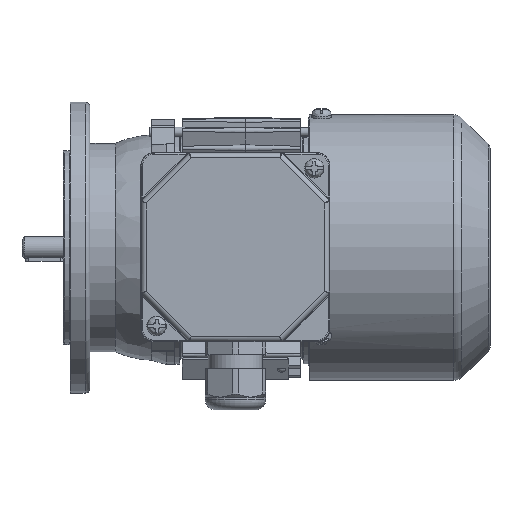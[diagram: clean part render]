
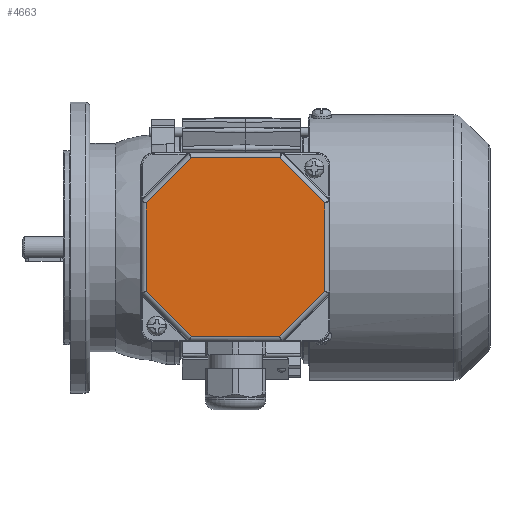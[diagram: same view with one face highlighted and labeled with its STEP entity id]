
A CAD part, top view. The second image highlights one B-rep face of the part: STEP entity #4663.
In plain terms, the highlighted planar face has unit normal (0, 0, 1).
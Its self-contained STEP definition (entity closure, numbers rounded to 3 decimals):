
#4663 = ADVANCED_FACE( '', ( #9499 ), #9500, .T. );
#9499 = FACE_OUTER_BOUND( '', #22551, .T. );
#9500 = PLANE( '', #22552 );
#22551 = EDGE_LOOP( '', ( #35960, #35961, #35962, #35963, #35964, #35965, #35966, #35967 ) );
#22552 = AXIS2_PLACEMENT_3D( '', #35968, #35969, #35970 );
#35960 = ORIENTED_EDGE( '', *, *, #44481, .T. );
#35961 = ORIENTED_EDGE( '', *, *, #41279, .T. );
#35962 = ORIENTED_EDGE( '', *, *, #42765, .T. );
#35963 = ORIENTED_EDGE( '', *, *, #45096, .T. );
#35964 = ORIENTED_EDGE( '', *, *, #42060, .T. );
#35965 = ORIENTED_EDGE( '', *, *, #42561, .T. );
#35966 = ORIENTED_EDGE( '', *, *, #40688, .T. );
#35967 = ORIENTED_EDGE( '', *, *, #41025, .T. );
#35968 = CARTESIAN_POINT( '', ( -39., 39., 12. ) );
#35969 = DIRECTION( '', ( 0., 0., 1. ) );
#35970 = DIRECTION( '', ( 1., 0., 0. ) );
#40688 = EDGE_CURVE( '', #46863, #46864, #46865, .F. );
#41025 = EDGE_CURVE( '', #46864, #47450, #47452, .T. );
#41279 = EDGE_CURVE( '', #47892, #47893, #47894, .T. );
#42060 = EDGE_CURVE( '', #49199, #49200, #49201, .F. );
#42561 = EDGE_CURVE( '', #49200, #46863, #49996, .T. );
#42765 = EDGE_CURVE( '', #47893, #50305, #50306, .F. );
#44481 = EDGE_CURVE( '', #47450, #47892, #52710, .F. );
#45096 = EDGE_CURVE( '', #50305, #49199, #53469, .T. );
#46863 = VERTEX_POINT( '', #56905 );
#46864 = VERTEX_POINT( '', #56906 );
#46865 = LINE( '', #56907, #56908 );
#47450 = VERTEX_POINT( '', #58178 );
#47452 = LINE( '', #58180, #58181 );
#47892 = VERTEX_POINT( '', #59140 );
#47893 = VERTEX_POINT( '', #59141 );
#47894 = LINE( '', #59142, #59143 );
#49199 = VERTEX_POINT( '', #61777 );
#49200 = VERTEX_POINT( '', #61778 );
#49201 = LINE( '', #61779, #61780 );
#49996 = LINE( '', #63455, #63456 );
#50305 = VERTEX_POINT( '', #64273 );
#50306 = LINE( '', #64274, #64275 );
#52710 = LINE( '', #70171, #70172 );
#53469 = LINE( '', #71973, #71974 );
#56905 = CARTESIAN_POINT( '', ( -18.255, -36.825, 12. ) );
#56906 = CARTESIAN_POINT( '', ( 18.255, -36.825, 12. ) );
#56907 = CARTESIAN_POINT( '', ( 19.069, -36.825, 12. ) );
#56908 = VECTOR( '', #74332, 1000. );
#58178 = CARTESIAN_POINT( '', ( 36.825, -18.255, 12. ) );
#58180 = CARTESIAN_POINT( '', ( 37.401, -17.679, 12. ) );
#58181 = VECTOR( '', #74755, 1000. );
#59140 = CARTESIAN_POINT( '', ( 36.825, 18.255, 12. ) );
#59141 = CARTESIAN_POINT( '', ( 18.255, 36.825, 12. ) );
#59142 = CARTESIAN_POINT( '', ( 17.679, 37.401, 12. ) );
#59143 = VECTOR( '', #75076, 1000. );
#61777 = CARTESIAN_POINT( '', ( -36.825, 18.255, 12. ) );
#61778 = CARTESIAN_POINT( '', ( -36.825, -18.255, 12. ) );
#61779 = CARTESIAN_POINT( '', ( -36.825, -19.069, 12. ) );
#61780 = VECTOR( '', #76109, 1000. );
#63455 = CARTESIAN_POINT( '', ( -17.679, -37.401, 12. ) );
#63456 = VECTOR( '', #76663, 1000. );
#64273 = CARTESIAN_POINT( '', ( -18.255, 36.825, 12. ) );
#64274 = CARTESIAN_POINT( '', ( -19.069, 36.825, 12. ) );
#64275 = VECTOR( '', #76929, 1000. );
#70171 = CARTESIAN_POINT( '', ( 36.825, 19.069, 12. ) );
#70172 = VECTOR( '', #78786, 1000. );
#71973 = CARTESIAN_POINT( '', ( -37.401, 17.679, 12. ) );
#71974 = VECTOR( '', #79451, 1000. );
#74332 = DIRECTION( '', ( -1., 0., 0. ) );
#74755 = DIRECTION( '', ( 0.707, 0.707, 0. ) );
#75076 = DIRECTION( '', ( -0.707, 0.707, 0. ) );
#76109 = DIRECTION( '', ( 0., 1., 0. ) );
#76663 = DIRECTION( '', ( 0.707, -0.707, 0. ) );
#76929 = DIRECTION( '', ( 1., 0., 0. ) );
#78786 = DIRECTION( '', ( 0., -1., 0. ) );
#79451 = DIRECTION( '', ( -0.707, -0.707, 0. ) );
